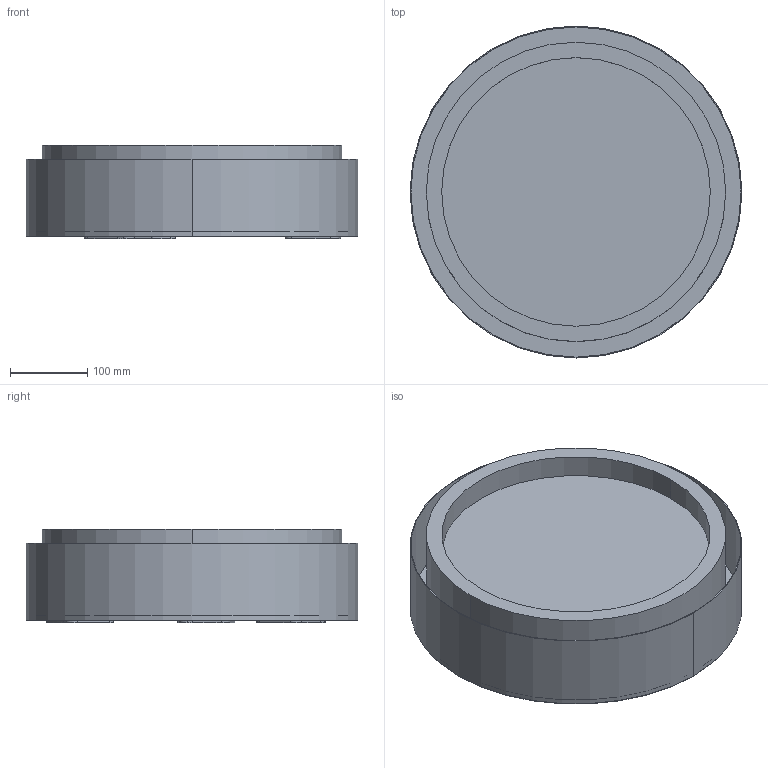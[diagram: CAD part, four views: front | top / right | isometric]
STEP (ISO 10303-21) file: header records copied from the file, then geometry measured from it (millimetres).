
FILE_DESCRIPTION (( 'STEP AP203' ), '1' );
FILE_NAME ('Okr¹g³a natynkowa 430mm.STEP', '2020-07-12T21:22:01', ( '' ), ( '' ), 'SwSTEP 2.0', 'SolidWorks 2012', '' );
FILE_SCHEMA (( 'CONFIG_CONTROL_DESIGN' ));
Length unit declared in the file: millimetre
Products named in the file (1): Okr鉚豉 natynkowa 430mm
Bounding box: 430 x 430 x 120.6 mm (x, y, z)
Volume: 3316151.1 mm3; surface area: 1044117.5 mm2
Topology: 2 solids, 2 shells, 141 faces, 360 edges, 240 vertices
Faces by surface type: cylinder 107, plane 34
Full cylindrical faces by diameter (mm): 428.4 x1
Entity records: 4527 total; most frequent: DIRECTION 858, CARTESIAN_POINT 742, ORIENTED_EDGE 720, EDGE_CURVE 360, AXIS2_PLACEMENT_3D 356, VERTEX_POINT 240, CIRCLE 214, EDGE_LOOP 190
